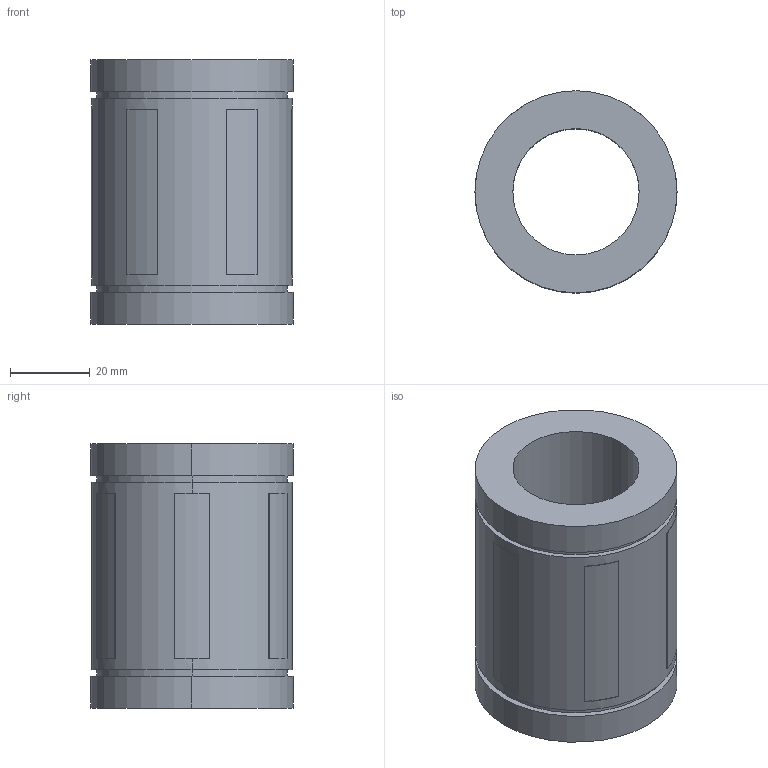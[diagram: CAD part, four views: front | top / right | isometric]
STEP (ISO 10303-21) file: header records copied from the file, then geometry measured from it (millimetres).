
FILE_DESCRIPTION((''),'2;1');
FILE_NAME('C:\Documents and Settings\ｿﾀﾀ蠑ｷ1\ｹﾙﾅﾁ ﾈｭｸ饅\ｺﾎﾇｰﾆﾄﾀﾏ\ﾁｦﾇｰ\LMBS__UU\LMBS20UU.stp','2005-06-15T13:59:37',('ｿﾀﾀ蠑ｷ1'),(''),'Autodesk Inventor 9','Autodesk Inventor 9','');
FILE_SCHEMA(('AUTOMOTIVE_DESIGN { 1 0 10303 214 1 1 1 1 }'));
Length unit declared in the file: millimetre
Products named in the file (1): LMBS__
Bounding box: 50.8 x 50.8 x 66.4 mm (x, y, z)
Volume: 80459.1 mm3; surface area: 20558.5 mm2
Topology: 1 solids, 1 shells, 48 faces, 114 edges, 76 vertices
Faces by surface type: plane 28, cylinder 16, bspline 4
Entity records: 1463 total; most frequent: CARTESIAN_POINT 279, DIRECTION 256, ORIENTED_EDGE 228, EDGE_CURVE 114, AXIS2_PLACEMENT_3D 97, VERTEX_POINT 76, VECTOR 62, LINE 62
